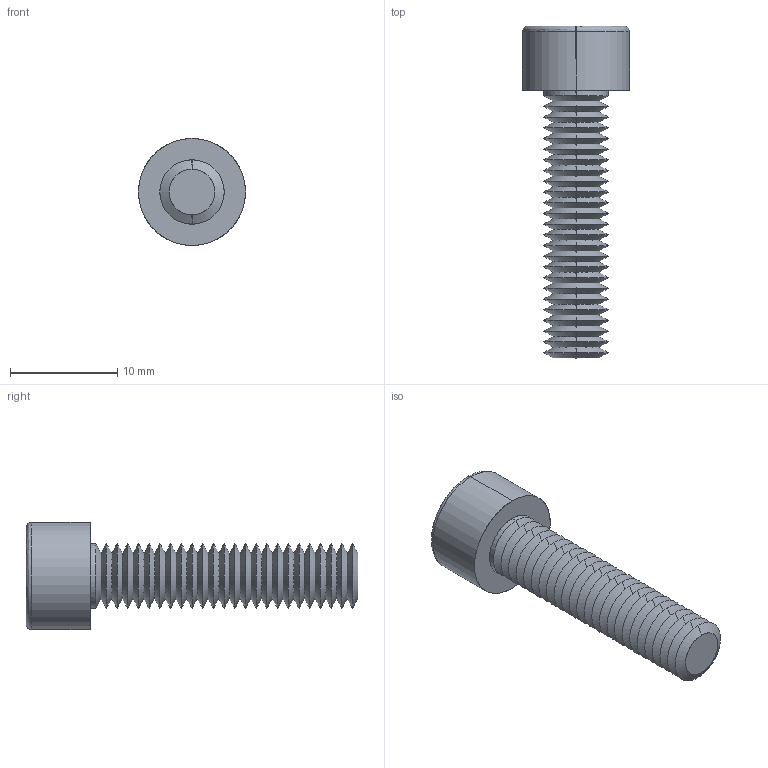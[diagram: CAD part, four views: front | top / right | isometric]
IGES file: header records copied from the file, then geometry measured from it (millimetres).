
Start section: SolidWorks IGES file using analytic representation for surfaces
Global section: file name: C:\Users\ianosborn\Desktop\N0007.91N_v2\N0007.91N_v2_20250519_IGES\91N.060.0250.igs; native system: SolidWorks 2019; preprocessor: SolidWorks 2019; author: IanOsborn; date: 250520.095301; units: millimetre
Bounding box: 10 x 31 x 10 mm (x, y, z)
Surface area: 1213.1 mm2 (no closed solid volume)
Topology: 0 solids, 0 shells, 128 faces, 709 edges, 707 vertices
Faces by surface type: revolution 111, bspline 17
